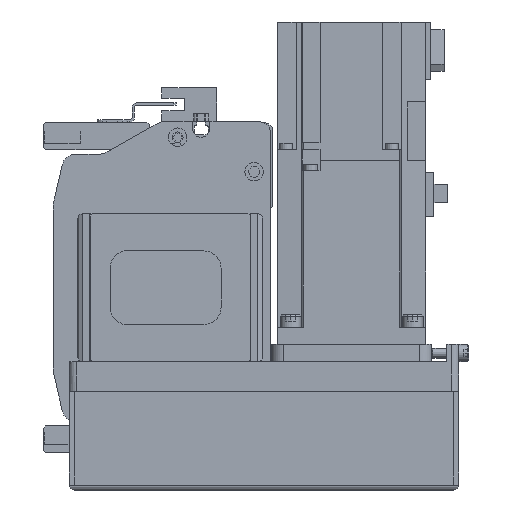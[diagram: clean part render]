
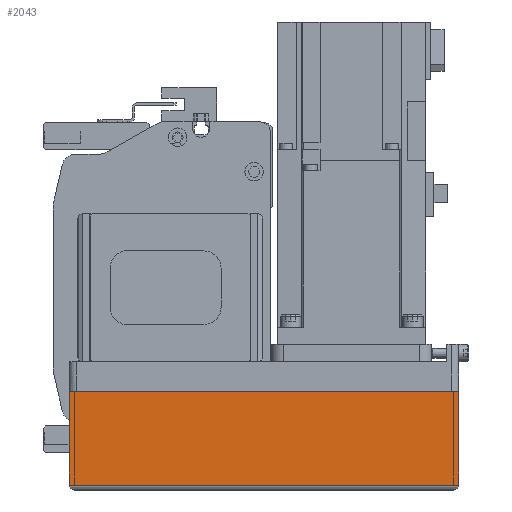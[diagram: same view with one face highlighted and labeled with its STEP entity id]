
A CAD part, left-side view. The second image highlights one B-rep face of the part: STEP entity #2043.
In plain terms, the highlighted planar face has unit normal (-1, 0, 0) as drawn and (0, 1, 0) by its records, which use the part's own axes.
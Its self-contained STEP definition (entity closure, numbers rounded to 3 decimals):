
#2043 = ADVANCED_FACE( '', ( #4830 ), #4831, .T. );
#4830 = FACE_OUTER_BOUND( '', #8520, .T. );
#4831 = PLANE( '', #8521 );
#8520 = EDGE_LOOP( '', ( #14386, #14387, #14388, #14389 ) );
#8521 = AXIS2_PLACEMENT_3D( '', #14390, #14391, #14392 );
#14386 = ORIENTED_EDGE( '', *, *, #21574, .F. );
#14387 = ORIENTED_EDGE( '', *, *, #21290, .F. );
#14388 = ORIENTED_EDGE( '', *, *, #22586, .T. );
#14389 = ORIENTED_EDGE( '', *, *, #22587, .T. );
#14390 = CARTESIAN_POINT( '', ( -158., 39., -50. ) );
#14391 = DIRECTION( '', ( 0., 1., 0. ) );
#14392 = DIRECTION( '', ( 0., 0., 1. ) );
#21290 = EDGE_CURVE( '', #25588, #25591, #25592, .T. );
#21574 = EDGE_CURVE( '', #25591, #26072, #26073, .T. );
#22586 = EDGE_CURVE( '', #25588, #25514, #27669, .T. );
#22587 = EDGE_CURVE( '', #25514, #26072, #27670, .T. );
#25514 = VERTEX_POINT( '', #31744 );
#25588 = VERTEX_POINT( '', #31886 );
#25591 = VERTEX_POINT( '', #31889 );
#25592 = LINE( '', #31890, #31891 );
#26072 = VERTEX_POINT( '', #32599 );
#26073 = LINE( '', #32600, #32601 );
#27669 = LINE( '', #35289, #35290 );
#27670 = LINE( '', #35291, #35292 );
#31744 = CARTESIAN_POINT( '', ( -158., 39., -12.1 ) );
#31886 = CARTESIAN_POINT( '', ( -158., 39., -50. ) );
#31889 = CARTESIAN_POINT( '', ( 0., 39., -50. ) );
#31890 = CARTESIAN_POINT( '', ( -158., 39., -50. ) );
#31891 = VECTOR( '', #39673, 1000. );
#32599 = CARTESIAN_POINT( '', ( 0., 39., -12.1 ) );
#32600 = CARTESIAN_POINT( '', ( 0., 39., -50. ) );
#32601 = VECTOR( '', #40030, 1000. );
#35289 = CARTESIAN_POINT( '', ( -158., 39., -50. ) );
#35290 = VECTOR( '', #41225, 1000. );
#35291 = CARTESIAN_POINT( '', ( -158., 39., -12.1 ) );
#35292 = VECTOR( '', #41226, 1000. );
#39673 = DIRECTION( '', ( 1., 0., 0. ) );
#40030 = DIRECTION( '', ( 0., 0., 1. ) );
#41225 = DIRECTION( '', ( 0., 0., 1. ) );
#41226 = DIRECTION( '', ( 1., 0., 0. ) );
